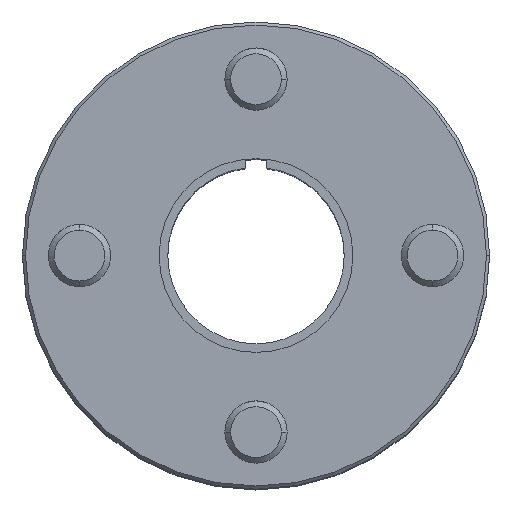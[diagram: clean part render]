
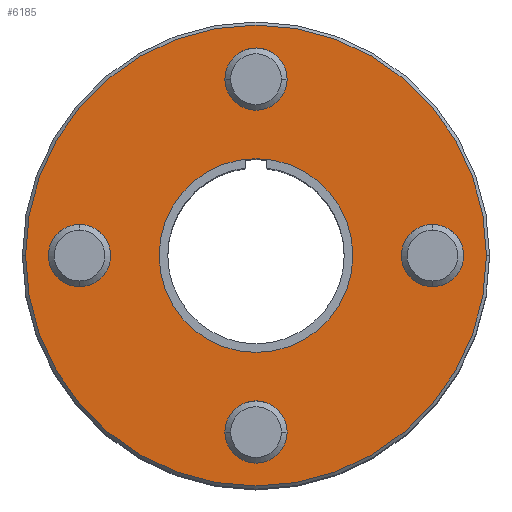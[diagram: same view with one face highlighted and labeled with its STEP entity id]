
A CAD part, top view. The second image highlights one B-rep face of the part: STEP entity #6185.
In plain terms, the highlighted planar face has unit normal (0, 0, 1).
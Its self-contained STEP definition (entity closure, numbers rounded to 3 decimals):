
#122 = EDGE_LOOP ( 'NONE', ( #1599, #6835 ) ) ;
#154 = CARTESIAN_POINT ( 'NONE',  ( 3., -17., 48.486 ) ) ;
#181 = CARTESIAN_POINT ( 'NONE',  ( -3., 17., 48.486 ) ) ;
#186 = AXIS2_PLACEMENT_3D ( 'NONE', #3542, #253, #4086 ) ;
#228 = EDGE_LOOP ( 'NONE', ( #1856, #2121 ) ) ;
#253 = DIRECTION ( 'NONE',  ( 0., 0., 1. ) ) ;
#268 = DIRECTION ( 'NONE',  ( 1., 0., 0. ) ) ;
#395 = VERTEX_POINT ( 'NONE', #4305 ) ;
#400 = EDGE_LOOP ( 'NONE', ( #6827, #6292 ) ) ;
#417 = EDGE_LOOP ( 'NONE', ( #4408, #6099 ) ) ;
#751 = VERTEX_POINT ( 'NONE', #4037 ) ;
#768 = VERTEX_POINT ( 'NONE', #181 ) ;
#903 = CIRCLE ( 'NONE', #2176, 22.2 ) ;
#958 = FACE_OUTER_BOUND ( 'NONE', #417, .T. ) ;
#1135 = CARTESIAN_POINT ( 'NONE',  ( 0., -17., 48.486 ) ) ;
#1221 = DIRECTION ( 'NONE',  ( 0., 0., 1. ) ) ;
#1312 = AXIS2_PLACEMENT_3D ( 'NONE', #1816, #5607, #2368 ) ;
#1599 = ORIENTED_EDGE ( 'NONE', *, *, #3935, .F. ) ;
#1653 = AXIS2_PLACEMENT_3D ( 'NONE', #2856, #6681, #3409 ) ;
#1673 = DIRECTION ( 'NONE',  ( 1., 0., 0. ) ) ;
#1702 = DIRECTION ( 'NONE',  ( 0., 0., 1. ) ) ;
#1789 = CARTESIAN_POINT ( 'NONE',  ( 17., 0., 48.486 ) ) ;
#1816 = CARTESIAN_POINT ( 'NONE',  ( 0., 0., 48.486 ) ) ;
#1856 = ORIENTED_EDGE ( 'NONE', *, *, #4534, .F. ) ;
#1912 = CIRCLE ( 'NONE', #1312, 9.335 ) ;
#2121 = ORIENTED_EDGE ( 'NONE', *, *, #6232, .F. ) ;
#2176 = AXIS2_PLACEMENT_3D ( 'NONE', #4950, #1702, #5484 ) ;
#2315 = CARTESIAN_POINT ( 'NONE',  ( 0., 17., 48.486 ) ) ;
#2342 = DIRECTION ( 'NONE',  ( 1., 0., 0. ) ) ;
#2360 = CARTESIAN_POINT ( 'NONE',  ( 0., 0., 48.486 ) ) ;
#2368 = DIRECTION ( 'NONE',  ( 1., 0., 0. ) ) ;
#2376 = DIRECTION ( 'NONE',  ( 0., 0., 1. ) ) ;
#2424 = AXIS2_PLACEMENT_3D ( 'NONE', #2360, #6155, #2900 ) ;
#2497 = CARTESIAN_POINT ( 'NONE',  ( -9.335, 0., 48.486 ) ) ;
#2567 = DIRECTION ( 'NONE',  ( 0., 0., 1. ) ) ;
#2573 = FACE_BOUND ( 'NONE', #228, .T. ) ;
#2807 = VERTEX_POINT ( 'NONE', #154 ) ;
#2814 = CARTESIAN_POINT ( 'NONE',  ( 0., 0., 48.486 ) ) ;
#2823 = CARTESIAN_POINT ( 'NONE',  ( 22.2, 0., 48.486 ) ) ;
#2849 = DIRECTION ( 'NONE',  ( 1., 0., 0. ) ) ;
#2856 = CARTESIAN_POINT ( 'NONE',  ( -17., 0., 48.486 ) ) ;
#2900 = DIRECTION ( 'NONE',  ( -1., 0., 0. ) ) ;
#2907 = VERTEX_POINT ( 'NONE', #4035 ) ;
#2939 = AXIS2_PLACEMENT_3D ( 'NONE', #2315, #6103, #2849 ) ;
#2968 = AXIS2_PLACEMENT_3D ( 'NONE', #6815, #3556, #268 ) ;
#2994 = CIRCLE ( 'NONE', #3091, 3. ) ;
#3091 = AXIS2_PLACEMENT_3D ( 'NONE', #1135, #4917, #1673 ) ;
#3142 = ORIENTED_EDGE ( 'NONE', *, *, #6379, .F. ) ;
#3336 = PLANE ( 'NONE',  #6528 ) ;
#3359 = DIRECTION ( 'NONE',  ( -1., 0., 0. ) ) ;
#3409 = DIRECTION ( 'NONE',  ( 1., 0., 0. ) ) ;
#3413 = EDGE_CURVE ( 'NONE', #6977, #4329, #903, .T. ) ;
#3542 = CARTESIAN_POINT ( 'NONE',  ( -17., 0., 48.486 ) ) ;
#3553 = EDGE_CURVE ( 'NONE', #6123, #5193, #1912, .T. ) ;
#3556 = DIRECTION ( 'NONE',  ( 0., 0., 1. ) ) ;
#3697 = CIRCLE ( 'NONE', #6794, 9.335 ) ;
#3719 = EDGE_CURVE ( 'NONE', #2907, #395, #4437, .T. ) ;
#3786 = ORIENTED_EDGE ( 'NONE', *, *, #4044, .F. ) ;
#3829 = VERTEX_POINT ( 'NONE', #5368 ) ;
#3867 = VERTEX_POINT ( 'NONE', #5960 ) ;
#3913 = CIRCLE ( 'NONE', #1653, 3. ) ;
#3935 = EDGE_CURVE ( 'NONE', #2807, #3867, #2994, .T. ) ;
#4005 = FACE_BOUND ( 'NONE', #400, .T. ) ;
#4035 = CARTESIAN_POINT ( 'NONE',  ( 20., 0., 48.486 ) ) ;
#4037 = CARTESIAN_POINT ( 'NONE',  ( 3., 17., 48.486 ) ) ;
#4044 = EDGE_CURVE ( 'NONE', #751, #768, #6921, .T. ) ;
#4086 = DIRECTION ( 'NONE',  ( 1., 0., 0. ) ) ;
#4157 = CIRCLE ( 'NONE', #7091, 3. ) ;
#4305 = CARTESIAN_POINT ( 'NONE',  ( 14., 0., 48.486 ) ) ;
#4329 = VERTEX_POINT ( 'NONE', #2823 ) ;
#4408 = ORIENTED_EDGE ( 'NONE', *, *, #3413, .T. ) ;
#4437 = CIRCLE ( 'NONE', #7011, 3. ) ;
#4446 = CARTESIAN_POINT ( 'NONE',  ( 0., 0., 48.486 ) ) ;
#4534 = EDGE_CURVE ( 'NONE', #3829, #5025, #5585, .T. ) ;
#4636 = ORIENTED_EDGE ( 'NONE', *, *, #3553, .F. ) ;
#4721 = CIRCLE ( 'NONE', #2424, 22.2 ) ;
#4750 = EDGE_LOOP ( 'NONE', ( #4636, #4874 ) ) ;
#4826 = AXIS2_PLACEMENT_3D ( 'NONE', #5617, #2376, #6169 ) ;
#4874 = ORIENTED_EDGE ( 'NONE', *, *, #5650, .F. ) ;
#4917 = DIRECTION ( 'NONE',  ( 0., 0., 1. ) ) ;
#4927 = CIRCLE ( 'NONE', #2968, 3. ) ;
#4950 = CARTESIAN_POINT ( 'NONE',  ( 0., 0., 48.486 ) ) ;
#5002 = DIRECTION ( 'NONE',  ( 1., 0., 0. ) ) ;
#5025 = VERTEX_POINT ( 'NONE', #6162 ) ;
#5096 = FACE_BOUND ( 'NONE', #4750, .T. ) ;
#5193 = VERTEX_POINT ( 'NONE', #2497 ) ;
#5212 = CIRCLE ( 'NONE', #4826, 3. ) ;
#5279 = FACE_BOUND ( 'NONE', #6023, .T. ) ;
#5368 = CARTESIAN_POINT ( 'NONE',  ( -14., 0., 48.486 ) ) ;
#5484 = DIRECTION ( 'NONE',  ( -1., 0., 0. ) ) ;
#5572 = DIRECTION ( 'NONE',  ( 0., 0., 1. ) ) ;
#5583 = EDGE_CURVE ( 'NONE', #4329, #6977, #4721, .T. ) ;
#5585 = CIRCLE ( 'NONE', #186, 3. ) ;
#5607 = DIRECTION ( 'NONE',  ( 0., 0., 1. ) ) ;
#5617 = CARTESIAN_POINT ( 'NONE',  ( 0., -17., 48.486 ) ) ;
#5650 = EDGE_CURVE ( 'NONE', #5193, #6123, #3697, .T. ) ;
#5730 = EDGE_CURVE ( 'NONE', #3867, #2807, #5212, .T. ) ;
#5806 = CARTESIAN_POINT ( 'NONE',  ( 17., 0., 48.486 ) ) ;
#5960 = CARTESIAN_POINT ( 'NONE',  ( -3., -17., 48.486 ) ) ;
#5997 = CARTESIAN_POINT ( 'NONE',  ( 9.335, 0., 48.486 ) ) ;
#6023 = EDGE_LOOP ( 'NONE', ( #3786, #3142 ) ) ;
#6099 = ORIENTED_EDGE ( 'NONE', *, *, #5583, .T. ) ;
#6103 = DIRECTION ( 'NONE',  ( 0., 0., 1. ) ) ;
#6123 = VERTEX_POINT ( 'NONE', #5997 ) ;
#6155 = DIRECTION ( 'NONE',  ( 0., 0., 1. ) ) ;
#6162 = CARTESIAN_POINT ( 'NONE',  ( -20., 0., 48.486 ) ) ;
#6169 = DIRECTION ( 'NONE',  ( 1., 0., 0. ) ) ;
#6185 = ADVANCED_FACE ( 'NONE', ( #4005, #6567, #2573, #5279, #5096, #958 ), #3336, .F. ) ;
#6232 = EDGE_CURVE ( 'NONE', #5025, #3829, #3913, .T. ) ;
#6292 = ORIENTED_EDGE ( 'NONE', *, *, #6706, .F. ) ;
#6363 = DIRECTION ( 'NONE',  ( 1., 0., 0. ) ) ;
#6379 = EDGE_CURVE ( 'NONE', #768, #751, #4927, .T. ) ;
#6528 = AXIS2_PLACEMENT_3D ( 'NONE', #2814, #6630, #3359 ) ;
#6567 = FACE_BOUND ( 'NONE', #122, .T. ) ;
#6630 = DIRECTION ( 'NONE',  ( 0., 0., -1. ) ) ;
#6681 = DIRECTION ( 'NONE',  ( 0., 0., 1. ) ) ;
#6706 = EDGE_CURVE ( 'NONE', #395, #2907, #4157, .T. ) ;
#6794 = AXIS2_PLACEMENT_3D ( 'NONE', #4446, #1221, #5002 ) ;
#6809 = CARTESIAN_POINT ( 'NONE',  ( -22.2, 0., 48.486 ) ) ;
#6815 = CARTESIAN_POINT ( 'NONE',  ( 0., 17., 48.486 ) ) ;
#6827 = ORIENTED_EDGE ( 'NONE', *, *, #3719, .F. ) ;
#6835 = ORIENTED_EDGE ( 'NONE', *, *, #5730, .F. ) ;
#6921 = CIRCLE ( 'NONE', #2939, 3. ) ;
#6977 = VERTEX_POINT ( 'NONE', #6809 ) ;
#7011 = AXIS2_PLACEMENT_3D ( 'NONE', #5806, #2567, #6363 ) ;
#7091 = AXIS2_PLACEMENT_3D ( 'NONE', #1789, #5572, #2342 ) ;
